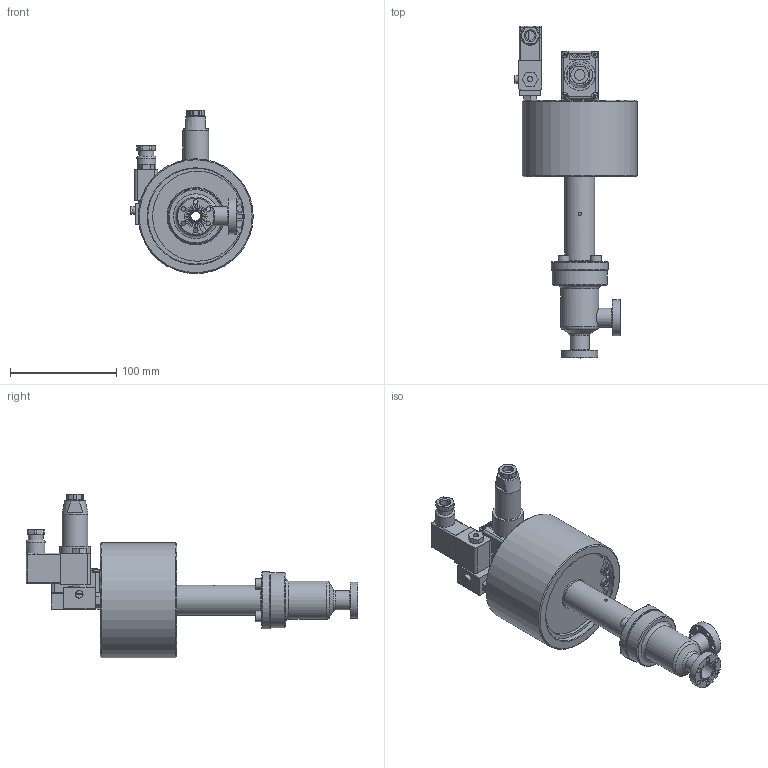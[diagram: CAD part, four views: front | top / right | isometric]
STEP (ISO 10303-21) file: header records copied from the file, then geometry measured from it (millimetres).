
FILE_DESCRIPTION(/* description */ (''),/* implementation_level */ '2;1');
FILE_NAME(/* name */ '1109350540_203.stp',/* time_stamp */ '2012-06-26T12:05:37+02:00',/* author */ (''),/* organization */ (''),/* preprocessor_version */ 'ST-DEVELOPER v11',/* originating_system */ 'SIEMENS PLM Software NX 7.5',/* authorisation */ '');
FILE_SCHEMA (('CONFIG_CONTROL_DESIGN'));
Length unit declared in the file: millimetre
Products named in the file (21): 467863; 467864; n-7510-202_1; n-7501-361; 69672-01; n-7604-110; n-8504-002; 80420-01; n-6024-531; 211199; 217479.1; 313142.1; 223347_1.2; 223345_1.4; 223343_1.2; 260102.1; N-5019-788.1; N-6203-092.1; 223626.3; n-8501-300_MODELNX-ARRAGMNTArrangement 1; 405683
Assembly tree (28 placements, depth 3):
  405683
    n-8501-300_MODELNX-ARRAGMNTArrangement 1
      467864
      467863
    223626.3
    N-6203-092.1
    N-5019-788.1  x4
    260102.1  x2
    223343_1.2
    223345_1.4
    223347_1.2
    313142.1
    217479.1
    211199  x2
    n-6024-531  x4
    80420-01
    n-8504-002
    n-7604-110
    69672-01
    n-7501-361
    n-7510-202_1
Bounding box: 115 x 311.69 x 153.5 mm (x, y, z)
Volume: 623166.2 mm3; surface area: 189505.4 mm2
Topology: 35 solids, 35 shells, 1013 faces, 2397 edges, 1562 vertices
Faces by surface type: plane 591, cylinder 262, cone 56, extrusion 44, torus 25, bspline 25, sphere 10
Full cylindrical faces by diameter (mm): 1.95 x4, 2 x1, 2.25 x4, 2.5 x4, 3 x17, 3.4 x4, 3.6 x2, 4.3 x12, 4.96 x4, 5 x12, 5.5 x1, 6 x19, 6.4 x4, 6.5 x2, 7 x3, 8.57 x1, 9 x1, 9.05 x1, 9.5 x1, 9.73 x1, 10 x8, 10.3 x1, 10.4 x2, 11.65 x1, 12.011 x1, 12.925 x1, 13.3 x1, 13.85 x1, 14 x1, 14.25 x1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
Entity records: 31296 total; most frequent: CARTESIAN_POINT 9911, DIRECTION 3650, ORIENTED_EDGE 3646, EDGE_CURVE 1823, AXIS2_PLACEMENT_3D 1370, VERTEX_POINT 1316, EDGE_LOOP 1255, VECTOR 910
